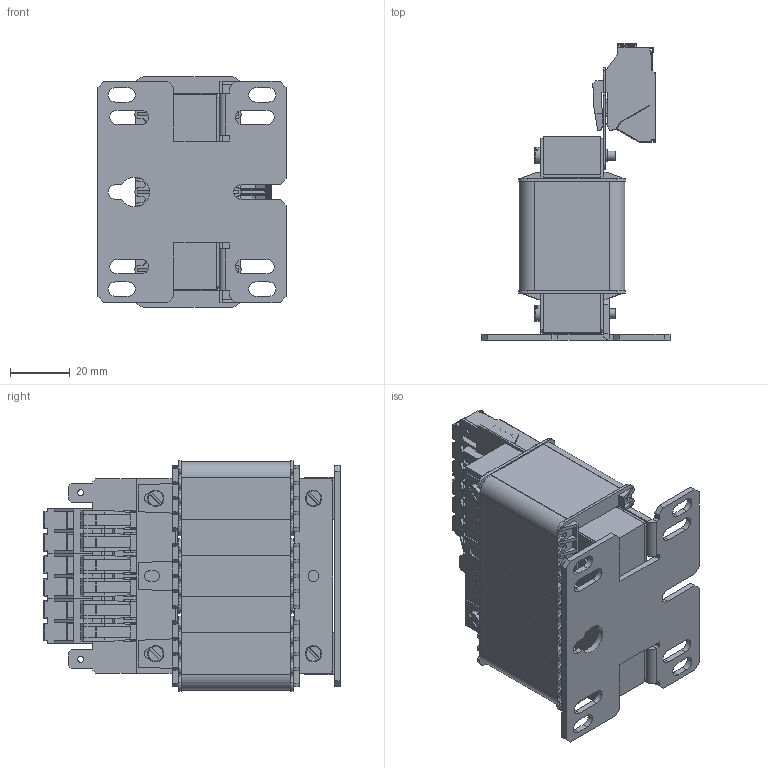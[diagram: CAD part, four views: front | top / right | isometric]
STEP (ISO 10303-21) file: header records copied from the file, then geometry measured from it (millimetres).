
FILE_DESCRIPTION (( 'STEP AP214' ), '1' );
FILE_NAME ('PCT-004.STEP', '2015-04-28T09:41:27', ( 'EDV' ), ( 'Microsoft' ), 'SwSTEP 2.0', 'SolidWorks 2014', '' );
FILE_SCHEMA (( 'AUTOMOTIVE_DESIGN' ));
Length unit declared in the file: millimetre
Products named in the file (10): BTK 4_2 +2202-0006; WickelUI39_20,8_1oD; UI39_20,8oD; #040-0869; #080-0487; #144-0144; 3UI39-19,2_Luftspalt0,8mm; PCT-004; Wickelabdeckung LR3 40-3_4; slotted cheese head screw_din_ISO 1207 - M3 x 25 --- 25N
Assembly tree (19 placements, depth 2):
  PCT-004
    3UI39-19,2_Luftspalt0,8mm
    #144-0144  x2
    #080-0487
    #040-0869
    UI39_20,8oD  x3
    WickelUI39_20,8_1oD  x3
    BTK 4_2 +2202-0006  x3
    slotted cheese head screw_din_ISO 1207 - M3 x 25 --- 25N  x4
    Wickelabdeckung LR3 40-3_4
Bounding box: 63 x 99.3 x 77 mm (x, y, z)
Volume: 153613.6 mm3; surface area: 125275.3 mm2
Topology: 21 solids, 21 shells, 6155 faces, 17190 edges, 11204 vertices
Faces by surface type: plane 4967, cylinder 855, bspline 278, torus 51, cone 4
Full cylindrical faces by diameter (mm): 2 x2, 2.316 x1, 2.5 x2, 2.7 x2, 3 x4, 3.5 x4, 3.65 x6, 4.1 x2, 6.95 x2, 7.15 x2
Entity records: 83889 total; most frequent: CARTESIAN_POINT 19374, ORIENTED_EDGE 13344, DIRECTION 11524, EDGE_CURVE 6672, LINE 5718, VECTOR 5718, VERTEX_POINT 4377, AXIS2_PLACEMENT_3D 2903
